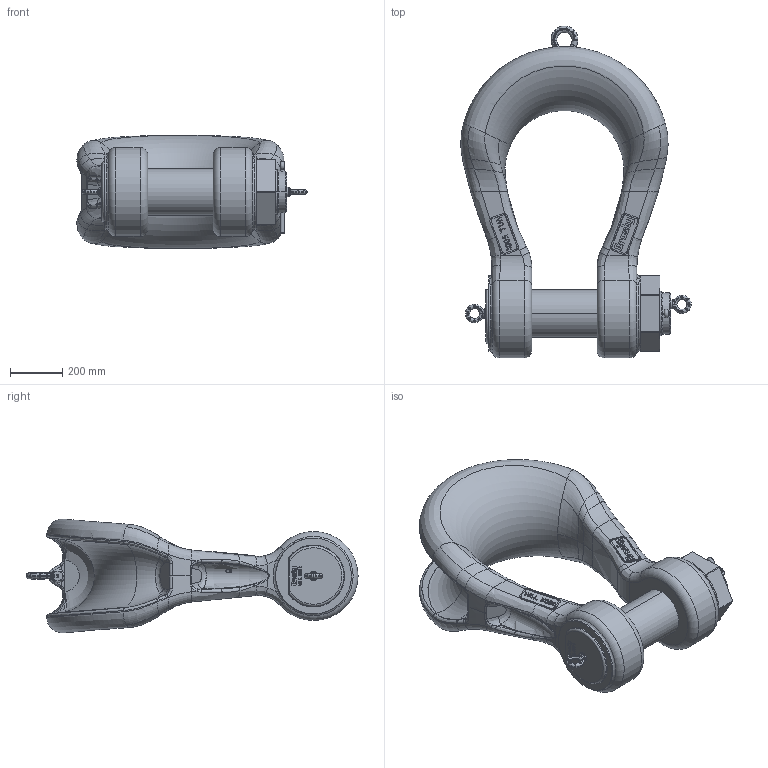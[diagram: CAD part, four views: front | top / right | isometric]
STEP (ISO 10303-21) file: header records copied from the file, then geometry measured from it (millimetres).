
FILE_DESCRIPTION((''),'2;1');
FILE_NAME('1021345_ASM','2024-09-04T11:33:30',('justin.lewis'),('The Crosby Group LLC'),'CREO PARAMETRIC BY PTC INC, 2021304','CREO PARAMETRIC BY PTC INC, 2021304','');
FILE_SCHEMA(('CONFIG_CONTROL_DESIGN','GEOMETRIC_VALIDATION_PROPERTIES_MIM'));
Length unit declared in the file: millimetre
Products named in the file (11): 0829-000500-D000-11; 0829-010500-D000-11; 3682332; 3702605; 1045995; 1502892; 1515868; 88344; 59019; 1019533_ASM; 1021345_ASM
Assembly tree (11 placements, depth 3):
  1021345_ASM
    0829-000500-D000-11
    0829-010500-D000-11
    3682332
    3702605
    1045995  x2
    1019533_ASM
      1502892
      1515868
      88344
      59019
Bounding box: 880.55 x 1269.41 x 433.64 mm (x, y, z)
Volume: 101355421 mm3; surface area: 3337553.9 mm2
Topology: 10 solids, 20 shells, 2811 faces, 10593 edges, 8577 vertices
Faces by surface type: extrusion 1057, plane 952, bspline 385, cylinder 138, torus 134, cone 86, revolution 59
Entity records: 214683 total; most frequent: CARTESIAN_POINT 110548, ORIENTED_EDGE 12305, PRESENTATION_STYLE_ASSIGNMENT 11901, STYLED_ITEM 11901, CURVE_STYLE 9580, DIRECTION 7856, EDGE_CURVE 6177, B_SPLINE_CURVE_WITH_KNOTS 5462
